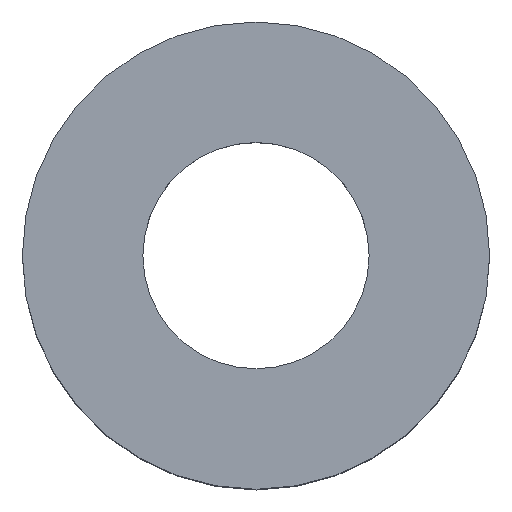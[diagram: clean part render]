
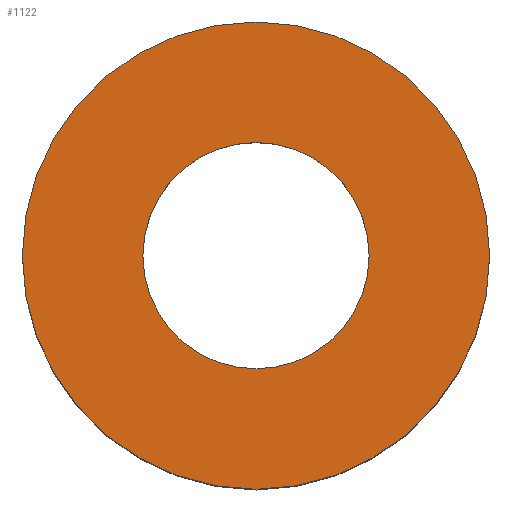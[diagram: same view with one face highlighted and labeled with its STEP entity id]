
A CAD part, top view. The second image highlights one B-rep face of the part: STEP entity #1122.
In plain terms, the highlighted planar face has unit normal (0, 0, 1).
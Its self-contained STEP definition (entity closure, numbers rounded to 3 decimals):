
#48=AXIS2_PLACEMENT_3D('Circle Axis2P3D',#46,#47,$) ;
#74=AXIS2_PLACEMENT_3D('Circle Axis2P3D',#72,#73,$) ;
#820=AXIS2_PLACEMENT_3D('Circle Axis2P3D',#818,#819,$) ;
#839=AXIS2_PLACEMENT_3D('Circle Axis2P3D',#837,#838,$) ;
#1112=AXIS2_PLACEMENT_3D('Plane Axis2P3D',#1109,#1110,#1111) ;
#41=CARTESIAN_POINT('Vertex',(-3.05,0.,5.25)) ;
#46=CARTESIAN_POINT('Axis2P3D Location',(0.,0.,5.25)) ;
#50=CARTESIAN_POINT('Vertex',(3.05,0.,5.25)) ;
#72=CARTESIAN_POINT('Axis2P3D Location',(0.,0.,5.25)) ;
#815=CARTESIAN_POINT('Vertex',(6.3,0.,5.25)) ;
#818=CARTESIAN_POINT('Axis2P3D Location',(0.,0.,5.25)) ;
#822=CARTESIAN_POINT('Vertex',(-6.3,0.,5.25)) ;
#837=CARTESIAN_POINT('Axis2P3D Location',(0.,0.,5.25)) ;
#1109=CARTESIAN_POINT('Axis2P3D Location',(0.,0.,5.25)) ;
#47=DIRECTION('Axis2P3D Direction',(0.,0.,1.)) ;
#73=DIRECTION('Axis2P3D Direction',(0.,0.,1.)) ;
#819=DIRECTION('Axis2P3D Direction',(0.,0.,1.)) ;
#838=DIRECTION('Axis2P3D Direction',(0.,0.,1.)) ;
#1110=DIRECTION('Axis2P3D Direction',(0.,0.,1.)) ;
#1111=DIRECTION('Axis2P3D XDirection',(1.,0.,0.)) ;
#1115=ORIENTED_EDGE('',*,*,#824,.T.) ;
#1116=ORIENTED_EDGE('',*,*,#841,.T.) ;
#1119=ORIENTED_EDGE('',*,*,#52,.F.) ;
#1120=ORIENTED_EDGE('',*,*,#76,.F.) ;
#1121=FACE_BOUND('',#1118,.T.) ;
#1122=ADVANCED_FACE('\X2\96F64EF651E04F554F53\X0\',(#1117,#1121),#1113,.T.) ;
#49=CIRCLE('generated circle',#48,3.05) ;
#75=CIRCLE('generated circle',#74,3.05) ;
#821=CIRCLE('generated circle',#820,6.3) ;
#840=CIRCLE('generated circle',#839,6.3) ;
#52=EDGE_CURVE('',#42,#51,#49,.T.) ;
#76=EDGE_CURVE('',#51,#42,#75,.T.) ;
#824=EDGE_CURVE('',#823,#816,#821,.T.) ;
#841=EDGE_CURVE('',#816,#823,#840,.T.) ;
#1114=EDGE_LOOP('',(#1115,#1116)) ;
#1118=EDGE_LOOP('',(#1119,#1120)) ;
#1117=FACE_OUTER_BOUND('',#1114,.T.) ;
#1113=PLANE('',#1112) ;
#42=VERTEX_POINT('',#41) ;
#51=VERTEX_POINT('',#50) ;
#816=VERTEX_POINT('',#815) ;
#823=VERTEX_POINT('',#822) ;
